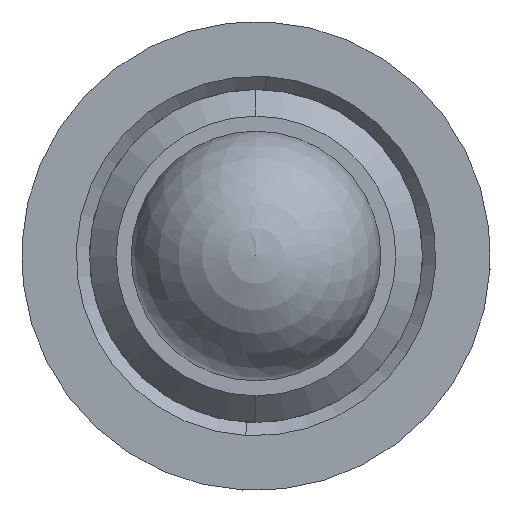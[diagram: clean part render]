
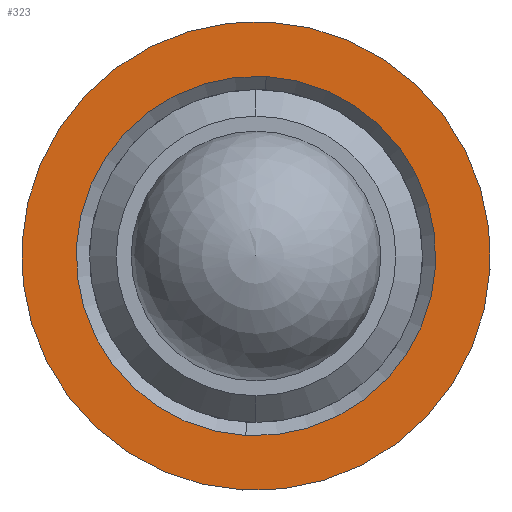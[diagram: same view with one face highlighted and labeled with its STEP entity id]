
A CAD part, left-side view. The second image highlights one B-rep face of the part: STEP entity #323.
In plain terms, the highlighted planar face has unit normal (-1, 0, 0).
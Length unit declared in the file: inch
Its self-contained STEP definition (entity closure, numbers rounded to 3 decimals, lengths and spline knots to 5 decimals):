
#12 = AXIS2_PLACEMENT_3D ( 'NONE', #1287, #1294, #1415 ) ;
#35 = CARTESIAN_POINT ( 'NONE',  ( -0.00043, 0.52894, 0.86891 ) ) ;
#77 = CARTESIAN_POINT ( 'NONE',  ( -0.00043, 0.53894, 0.69319 ) ) ;
#91 = VERTEX_POINT ( 'NONE', #35 ) ;
#145 = CARTESIAN_POINT ( 'NONE',  ( -0.00043, 0.54661, 0.55841 ) ) ;
#202 = DIRECTION ( 'NONE',  ( 1., 0., 0. ) ) ;
#226 = DIRECTION ( 'NONE',  ( 0., 0.057, -0.998 ) ) ;
#256 = CIRCLE ( 'NONE', #990, 0.176 ) ;
#300 = FACE_BOUND ( 'NONE', #1292, .T. ) ;
#323 = ADVANCED_FACE ( 'NONE', ( #300, #524 ), #1465, .F. ) ;
#369 = ORIENTED_EDGE ( 'NONE', *, *, #1080, .T. ) ;
#377 = CARTESIAN_POINT ( 'NONE',  ( -0.00043, 0.53894, 0.69319 ) ) ;
#404 = VERTEX_POINT ( 'NONE', #1306 ) ;
#450 = AXIS2_PLACEMENT_3D ( 'NONE', #1088, #706, #718 ) ;
#474 = CARTESIAN_POINT ( 'NONE',  ( -0.00043, 0.53127, 0.82797 ) ) ;
#498 = ORIENTED_EDGE ( 'NONE', *, *, #1533, .T. ) ;
#524 = FACE_OUTER_BOUND ( 'NONE', #647, .T. ) ;
#647 = EDGE_LOOP ( 'NONE', ( #498, #1396 ) ) ;
#698 = AXIS2_PLACEMENT_3D ( 'NONE', #377, #1354, #1112 ) ;
#705 = CIRCLE ( 'NONE', #450, 0.135 ) ;
#706 = DIRECTION ( 'NONE',  ( 1., 0., 0. ) ) ;
#718 = DIRECTION ( 'NONE',  ( 0., 0.057, -0.998 ) ) ;
#804 = CIRCLE ( 'NONE', #12, 0.176 ) ;
#962 = CARTESIAN_POINT ( 'NONE',  ( -0.00043, 0.53894, 0.69319 ) ) ;
#982 = DIRECTION ( 'NONE',  ( 0., -0.057, 0.998 ) ) ;
#990 = AXIS2_PLACEMENT_3D ( 'NONE', #962, #1115, #982 ) ;
#1080 = EDGE_CURVE ( 'NONE', #1291, #1356, #705, .T. ) ;
#1088 = CARTESIAN_POINT ( 'NONE',  ( -0.00043, 0.53894, 0.69319 ) ) ;
#1112 = DIRECTION ( 'NONE',  ( 0., 0.057, -0.998 ) ) ;
#1115 = DIRECTION ( 'NONE',  ( -1., 0., 0. ) ) ;
#1122 = EDGE_CURVE ( 'NONE', #404, #91, #256, .T. ) ;
#1257 = EDGE_CURVE ( 'NONE', #1356, #1291, #1369, .T. ) ;
#1283 = ORIENTED_EDGE ( 'NONE', *, *, #1257, .T. ) ;
#1287 = CARTESIAN_POINT ( 'NONE',  ( -0.00043, 0.53894, 0.69319 ) ) ;
#1291 = VERTEX_POINT ( 'NONE', #145 ) ;
#1292 = EDGE_LOOP ( 'NONE', ( #1283, #369 ) ) ;
#1294 = DIRECTION ( 'NONE',  ( -1., 0., 0. ) ) ;
#1306 = CARTESIAN_POINT ( 'NONE',  ( -0.00043, 0.54894, 0.51748 ) ) ;
#1354 = DIRECTION ( 'NONE',  ( 1., 0., 0. ) ) ;
#1356 = VERTEX_POINT ( 'NONE', #474 ) ;
#1369 = CIRCLE ( 'NONE', #1456, 0.135 ) ;
#1396 = ORIENTED_EDGE ( 'NONE', *, *, #1122, .T. ) ;
#1415 = DIRECTION ( 'NONE',  ( 0., -0.057, 0.998 ) ) ;
#1456 = AXIS2_PLACEMENT_3D ( 'NONE', #77, #202, #226 ) ;
#1465 = PLANE ( 'NONE',  #698 ) ;
#1533 = EDGE_CURVE ( 'NONE', #91, #404, #804, .T. ) ;
